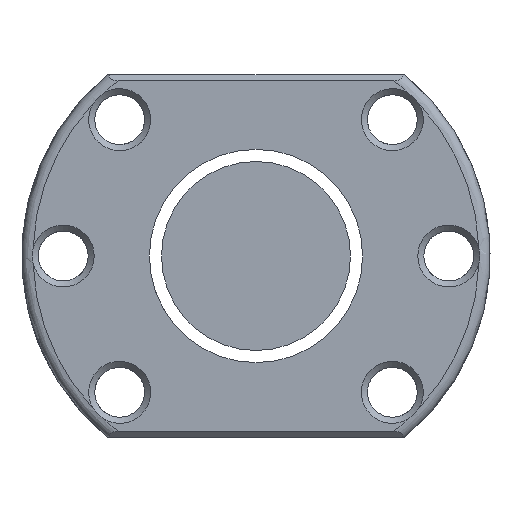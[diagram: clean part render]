
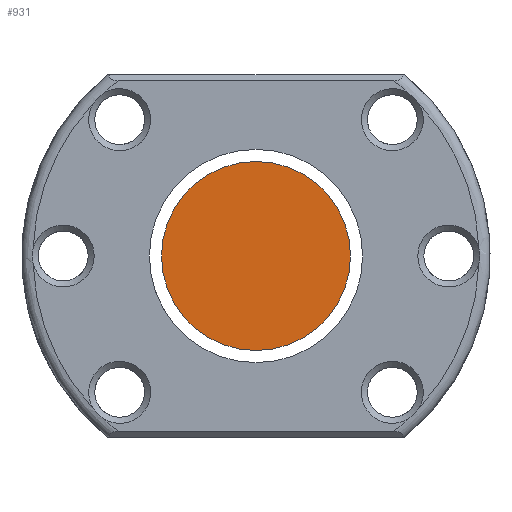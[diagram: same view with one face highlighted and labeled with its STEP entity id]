
A CAD part, left-side view. The second image highlights one B-rep face of the part: STEP entity #931.
In plain terms, the highlighted planar face has unit normal (-1, 0, 0).
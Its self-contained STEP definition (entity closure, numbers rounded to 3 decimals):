
#233 = DIRECTION ( 'NONE',  ( -1., 0., 0. ) ) ;
#306 = CIRCLE ( 'NONE', #2311, 12.5 ) ;
#366 = AXIS2_PLACEMENT_3D ( 'NONE', #479, #233, #997 ) ;
#479 = CARTESIAN_POINT ( 'NONE',  ( -280., 0., 0. ) ) ;
#516 = CARTESIAN_POINT ( 'NONE',  ( -280., 0., -12.5 ) ) ;
#782 = CARTESIAN_POINT ( 'NONE',  ( -280., 0., 0. ) ) ;
#931 = ADVANCED_FACE ( 'NONE', ( #1288 ), #2326, .T. ) ;
#997 = DIRECTION ( 'NONE',  ( 0., 0., 1. ) ) ;
#1288 = FACE_OUTER_BOUND ( 'NONE', #2533, .T. ) ;
#1363 = EDGE_CURVE ( 'NONE', #2078, #2078, #306, .T. ) ;
#1503 = DIRECTION ( 'NONE',  ( 1., 0., 0. ) ) ;
#2078 = VERTEX_POINT ( 'NONE', #516 ) ;
#2269 = DIRECTION ( 'NONE',  ( 0., 0., -1. ) ) ;
#2311 = AXIS2_PLACEMENT_3D ( 'NONE', #782, #1503, #2269 ) ;
#2326 = PLANE ( 'NONE',  #366 ) ;
#2533 = EDGE_LOOP ( 'NONE', ( #3132 ) ) ;
#3132 = ORIENTED_EDGE ( 'NONE', *, *, #1363, .F. ) ;
